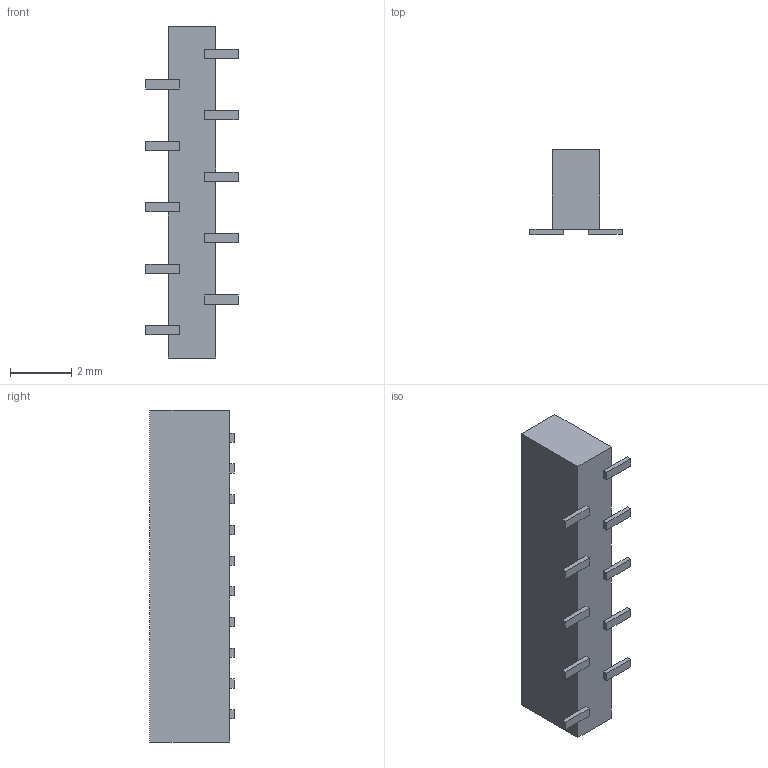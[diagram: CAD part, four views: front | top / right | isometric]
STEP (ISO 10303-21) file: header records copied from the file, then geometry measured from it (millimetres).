
FILE_DESCRIPTION((''),'2;1');
FILE_NAME('10PIN-CONNECTOR_PRT','2008-06-30T',('GRA'),(''),'PRO/ENGINEER BY PARAMETRIC TECHNOLOGY CORPORATION, 2006170','PRO/ENGINEER BY PARAMETRIC TECHNOLOGY CORPORATION, 2006170','');
FILE_SCHEMA(('CONFIG_CONTROL_DESIGN'));
Length unit declared in the file: millimetre
Products named in the file (1): 10PIN-CONNECTOR_PRT
Bounding box: 3 x 2.75 x 10.8 mm (x, y, z)
Volume: 43.7 mm3; surface area: 106 mm2
Topology: 1 solids, 1 shells, 66 faces, 172 edges, 108 vertices
Faces by surface type: plane 66
Entity records: 1994 total; most frequent: CARTESIAN_POINT 346, ORIENTED_EDGE 344, DIRECTION 304, VECTOR 172, LINE 172, EDGE_CURVE 172, VERTEX_POINT 108, AXIS2_PLACEMENT_3D 66
